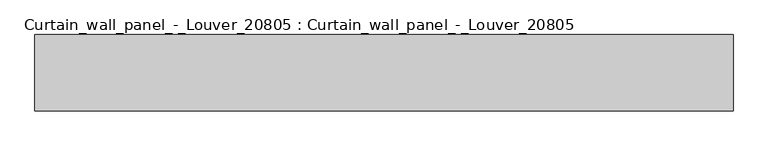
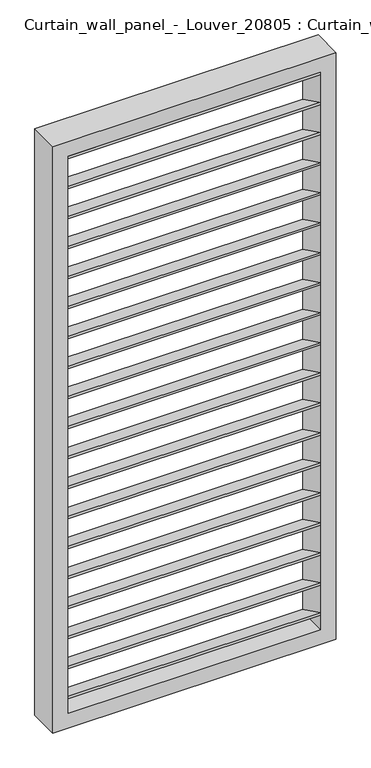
"""IFC4 building model written with IfcOpenShell, lengths in millimetres: plate geometry, Curtain_wall_panel_-_Louver_20805 : Curtain_wall_panel_-_Louver_20805."""

from ifc_helpers import new_model, si_unit, frame, origin, place, context, project, spatial, polyline, outline, extrude, source, transform, mapped, element, save


def curtain_wall_panel_louver_20805_curtain_wall_panel_louver_1ae15b3a(model_context):
    return source(origin(), model_context, "Body", "SweptSolid", [
        extrude(outline(polyline([(-200.0, 3678.5908966), (-200.0, 3695.3408295), (0.0, 3595.9558314), (0.0, 3579.2058986), (-200.0, 3678.5908966)])), frame((-815.0000002, 0.0, 0.0), z_axis=(1.0, 0.0, 0.0), x_axis=(0.0, 1.0, 0.0)), (0.0, 0.0, 1.0), 1630.0000003),
        extrude(outline(polyline([(-200.0, 3473.9317261), (-200.0, 3490.681659), (0.0, 3391.2966609), (0.0, 3374.546728), (-200.0, 3473.9317261)])), frame((-815.0000002, 0.0, 0.0), z_axis=(1.0, 0.0, 0.0), x_axis=(0.0, 1.0, 0.0)), (0.0, 0.0, 1.0), 1630.0000003),
        extrude(outline(polyline([(-200.0, 3269.2725556), (-200.0, 3286.0224885), (0.0, 3186.6374904), (0.0, 3169.8875575), (-200.0, 3269.2725556)])), frame((-815.0000002, 0.0, 0.0), z_axis=(1.0, 0.0, 0.0), x_axis=(0.0, 1.0, 0.0)), (0.0, 0.0, 1.0), 1630.0000003),
        extrude(outline(polyline([(-200.0, 3064.6133851), (-200.0, 3081.363318), (0.0, 2981.9783199), (0.0, 2965.228387), (-200.0, 3064.6133851)])), frame((-815.0000002, 0.0, 0.0), z_axis=(1.0, 0.0, 0.0), x_axis=(0.0, 1.0, 0.0)), (0.0, 0.0, 1.0), 1630.0000003),
        extrude(outline(polyline([(-200.0, 2859.9542146), (-200.0, 2876.7041475), (0.0, 2777.3191494), (0.0, 2760.5692165), (-200.0, 2859.9542146)])), frame((-815.0000002, 0.0, 0.0), z_axis=(1.0, 0.0, 0.0), x_axis=(0.0, 1.0, 0.0)), (0.0, 0.0, 1.0), 1630.0000003),
        extrude(outline(polyline([(-200.0, 2655.2950441), (-200.0, 2672.044977), (0.0, 2572.6599789), (0.0, 2555.910046), (-200.0, 2655.2950441)])), frame((-815.0000002, 0.0, 0.0), z_axis=(1.0, 0.0, 0.0), x_axis=(0.0, 1.0, 0.0)), (0.0, 0.0, 1.0), 1630.0000003),
        extrude(outline(polyline([(-200.0, 2450.6358736), (-200.0, 2467.3858065), (0.0, 2368.0008084), (0.0, 2351.2508755), (-200.0, 2450.6358736)])), frame((-815.0000002, 0.0, 0.0), z_axis=(1.0, 0.0, 0.0), x_axis=(0.0, 1.0, 0.0)), (0.0, 0.0, 1.0), 1630.0000003),
        extrude(outline(polyline([(-200.0, 2245.9767031), (-200.0, 2262.726636), (0.0, 2163.3416379), (0.0, 2146.591705), (-200.0, 2245.9767031)])), frame((-815.0000002, 0.0, 0.0), z_axis=(1.0, 0.0, 0.0), x_axis=(0.0, 1.0, 0.0)), (0.0, 0.0, 1.0), 1630.0000003),
        extrude(outline(polyline([(-200.0, 2041.3175326), (-200.0, 2058.0674655), (0.0, 1958.6824674), (0.0, 1941.9325345), (-200.0, 2041.3175326)])), frame((-815.0000002, 0.0, 0.0), z_axis=(1.0, 0.0, 0.0), x_axis=(0.0, 1.0, 0.0)), (0.0, 0.0, 1.0), 1630.0000003),
        extrude(outline(polyline([(-200.0, 1836.6583621), (-200.0, 1853.408295), (0.0, 1754.0232969), (0.0, 1737.273364), (-200.0, 1836.6583621)])), frame((-815.0000002, 0.0, 0.0), z_axis=(1.0, 0.0, 0.0), x_axis=(0.0, 1.0, 0.0)), (0.0, 0.0, 1.0), 1630.0000003),
        extrude(outline(polyline([(-200.0, 1631.9991916), (-200.0, 1648.7491245), (0.0, 1549.3641264), (0.0, 1532.6141935), (-200.0, 1631.9991916)])), frame((-815.0000002, 0.0, 0.0), z_axis=(1.0, 0.0, 0.0), x_axis=(0.0, 1.0, 0.0)), (0.0, 0.0, 1.0), 1630.0000003),
        extrude(outline(polyline([(-200.0, 1427.3400211), (-200.0, 1444.089954), (0.0, 1344.7049559), (0.0, 1327.955023), (-200.0, 1427.3400211)])), frame((-815.0000002, 0.0, 0.0), z_axis=(1.0, 0.0, 0.0), x_axis=(0.0, 1.0, 0.0)), (0.0, 0.0, 1.0), 1630.0000003),
        extrude(outline(polyline([(-200.0, 1222.6808506), (-200.0, 1239.4307835), (0.0, 1140.0457854), (0.0, 1123.2958525), (-200.0, 1222.6808506)])), frame((-815.0000002, 0.0, 0.0), z_axis=(1.0, 0.0, 0.0), x_axis=(0.0, 1.0, 0.0)), (0.0, 0.0, 1.0), 1630.0000003),
        extrude(outline(polyline([(-200.0, 1018.0216801), (-200.0, 1034.771613), (0.0, 935.3866149), (0.0, 918.636682), (-200.0, 1018.0216801)])), frame((-815.0000002, 0.0, 0.0), z_axis=(1.0, 0.0, 0.0), x_axis=(0.0, 1.0, 0.0)), (0.0, 0.0, 1.0), 1630.0000003),
        extrude(outline(polyline([(-200.0, 813.3625096), (-200.0, 830.1124425), (0.0, 730.7274444), (0.0, 713.9775115), (-200.0, 813.3625096)])), frame((-815.0000002, 0.0, 0.0), z_axis=(1.0, 0.0, 0.0), x_axis=(0.0, 1.0, 0.0)), (0.0, 0.0, 1.0), 1630.0000003),
        extrude(outline(polyline([(-200.0, 608.7033391), (-200.0, 625.453272), (0.0, 526.0682739), (0.0, 509.318341), (-200.0, 608.7033391)])), frame((-815.0000002, 0.0, 0.0), z_axis=(1.0, 0.0, 0.0), x_axis=(0.0, 1.0, 0.0)), (0.0, 0.0, 1.0), 1630.0000003),
        extrude(outline(polyline([(-200.0, 404.0441686), (-200.0, 420.7941014), (0.0, 321.4091034), (0.0, 304.6591705), (-200.0, 404.0441686)])), frame((-815.0000002, 0.0, 0.0), z_axis=(1.0, 0.0, 0.0), x_axis=(0.0, 1.0, 0.0)), (0.0, 0.0, 1.0), 1630.0000003),
        extrude(outline(polyline([(-200.0, 3883.2500672), (-200.0, 3900.0), (0.0, 3800.6150019), (0.0, 3783.8650691), (-200.0, 3883.2500672)])), frame((-815.0000002, 0.0, 0.0), z_axis=(1.0, 0.0, 0.0), x_axis=(0.0, 1.0, 0.0)), (0.0, 0.0, 1.0), 1630.0000003),
        extrude(outline(polyline([(-200.0, 199.3849981), (-200.0, 216.1349309), (0.0, 116.7499328), (0.0, 100.0), (-200.0, 199.3849981)])), frame((-815.0000002, 0.0, 0.0), z_axis=(1.0, 0.0, 0.0), x_axis=(0.0, 1.0, 0.0)), (0.0, 0.0, 1.0), 1630.0000003),
        extrude(outline(polyline([(4000.0, -915.0000002), (0.0, -915.0000002), (0.0, 915.0000002), (4000.0, 915.0000002), (4000.0, -915.0000002)]), holes=[polyline([(3900.0, -815.0000002), (3900.0, 815.0000002), (100.0, 815.0000002), (100.0, -815.0000002), (3900.0, -815.0000002)])]), frame((0.0, -200.0, 0.0), z_axis=(0.0, 1.0, 0.0), x_axis=(0.0, 0.0, 1.0)), (0.0, 0.0, 1.0), 200.0),
    ])


if __name__ == "__main__":
    model = new_model("IFC4")
    model_context = context("Model", 3, world=origin())
    ifc_project = project(units=[si_unit("LENGTHUNIT", "METRE", prefix="MILLI")], contexts=[model_context])
    site = spatial("IfcSite", under=ifc_project)
    building = spatial("IfcBuilding", under=site)
    placement = place(None, origin())
    curtain_wall_panel_louver_20805_curtain_wall_panel_louver_shape = curtain_wall_panel_louver_20805_curtain_wall_panel_louver_1ae15b3a(model_context)
    element("IfcPlate", 1, ObjectType="Curtain_wall_panel_-_Louver_20805 : Curtain_wall_panel_-_Louver_20805", at=placement, inside=building, context=model_context, shape_type="MappedRepresentation", body=[
        mapped(curtain_wall_panel_louver_20805_curtain_wall_panel_louver_shape, transform((0.0, 0.0, 0.0), x_axis=(1.0, 0.0, 0.0), y_axis=(0.0, 1.0, 0.0), z_axis=(0.0, 0.0, 1.0))),
    ])
    save(model, "model.ifc")
